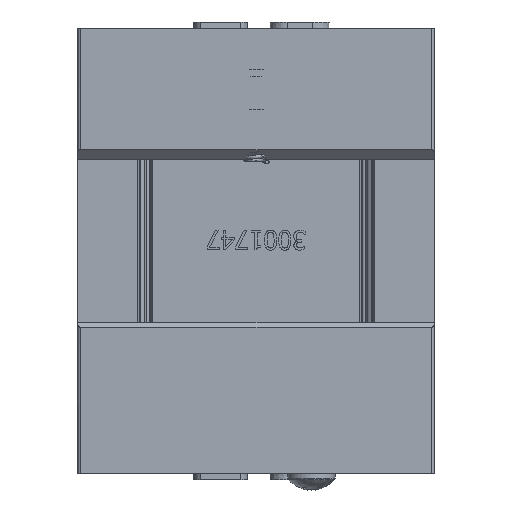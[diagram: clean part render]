
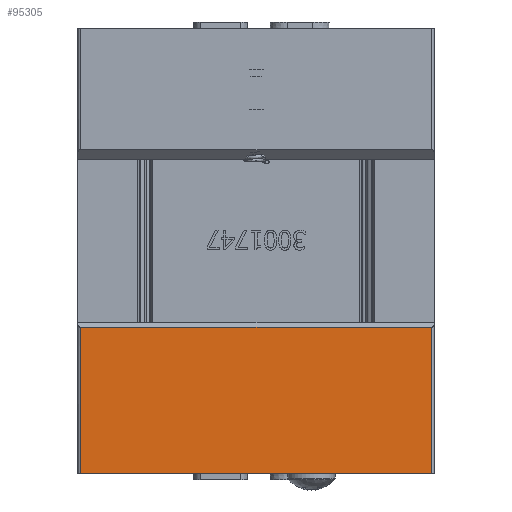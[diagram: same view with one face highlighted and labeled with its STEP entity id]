
A CAD part, front view. The second image highlights one B-rep face of the part: STEP entity #95305.
In plain terms, the highlighted planar face has unit normal (0, -1, 0).
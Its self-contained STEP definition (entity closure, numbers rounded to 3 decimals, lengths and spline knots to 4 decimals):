
#10084=FACE_OUTER_BOUND('',#15458,.T.);
#15458=EDGE_LOOP('',(#84389,#84390,#84391,#84392));
#25576=LINE('',#170603,#35872);
#25693=LINE('',#171397,#35989);
#25704=LINE('',#171427,#36000);
#25712=LINE('',#171441,#36008);
#35872=VECTOR('',#126558,0.3937);
#35989=VECTOR('',#127289,0.3937);
#36000=VECTOR('',#127322,0.3937);
#36008=VECTOR('',#127336,0.3937);
#44748=VERTEX_POINT('',#170600);
#44749=VERTEX_POINT('',#170602);
#45118=VERTEX_POINT('',#171394);
#45119=VERTEX_POINT('',#171396);
#57993=EDGE_CURVE('',#44748,#44749,#25576,.T.);
#58389=EDGE_CURVE('',#45119,#45118,#25693,.T.);
#58406=EDGE_CURVE('',#45119,#44748,#25704,.T.);
#58414=EDGE_CURVE('',#44749,#45118,#25712,.T.);
#84389=ORIENTED_EDGE('',*,*,#58389,.T.);
#84390=ORIENTED_EDGE('',*,*,#58414,.F.);
#84391=ORIENTED_EDGE('',*,*,#57993,.F.);
#84392=ORIENTED_EDGE('',*,*,#58406,.F.);
#90720=PLANE('',#103112);
#95305=ADVANCED_FACE('',(#10084),#90720,.T.);
#103112=AXIS2_PLACEMENT_3D('',#171440,#127334,#127335);
#126558=DIRECTION('',(1.,0.,0.));
#127289=DIRECTION('',(1.,0.,0.));
#127322=DIRECTION('',(0.,0.,1.));
#127334=DIRECTION('center_axis',(0.,-1.,0.));
#127335=DIRECTION('ref_axis',(1.,0.,0.));
#127336=DIRECTION('',(0.,0.,-1.));
#170600=CARTESIAN_POINT('',(0.02,0.,3.5));
#170602=CARTESIAN_POINT('',(2.78,0.,3.5));
#170603=CARTESIAN_POINT('',(0.,0.,3.5));
#171394=CARTESIAN_POINT('',(2.78,0.,2.351));
#171396=CARTESIAN_POINT('',(0.02,0.,2.351));
#171397=CARTESIAN_POINT('',(0.,0.,2.351));
#171427=CARTESIAN_POINT('',(0.02,0.,0.));
#171440=CARTESIAN_POINT('Origin',(0.,0.,0.));
#171441=CARTESIAN_POINT('',(2.78,0.,0.));
